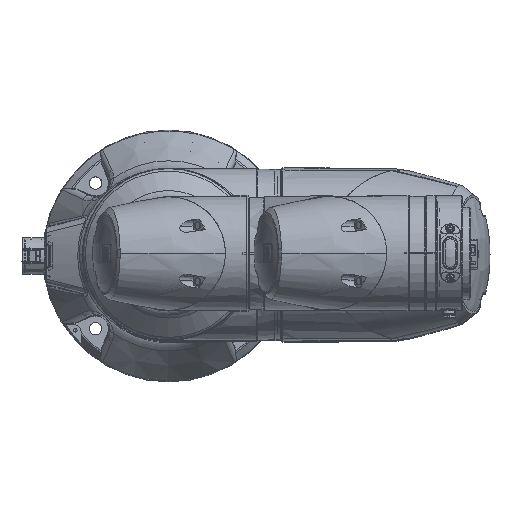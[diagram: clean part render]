
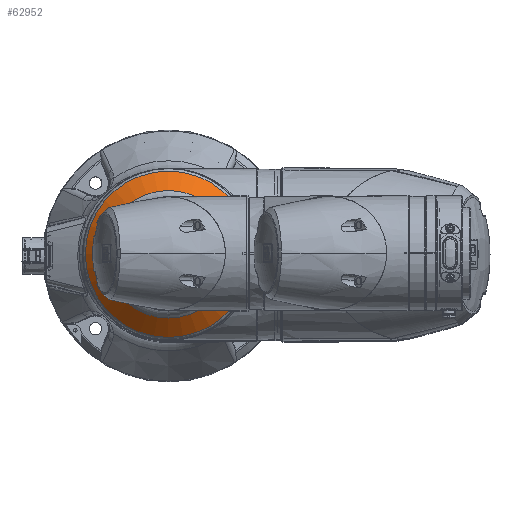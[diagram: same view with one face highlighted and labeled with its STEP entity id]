
A CAD part, top view. The second image highlights one B-rep face of the part: STEP entity #62952.
In plain terms, the highlighted conical face has half-angle 47 degrees and reference radius 57.092 mm.
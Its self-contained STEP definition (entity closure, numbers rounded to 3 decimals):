
#1150=CONICAL_SURFACE('',#68320,57.092,0.82);
#11466=FACE_OUTER_BOUND('',#15218,.T.);
#15218=EDGE_LOOP('',(#51871,#51872,#51873,#51874));
#18345=CIRCLE('',#68319,57.092);
#18346=CIRCLE('',#68321,43.77);
#21253=LINE('',#204910,#24628);
#24628=VECTOR('',#79438,57.092);
#29573=VERTEX_POINT('',#204905);
#29574=VERTEX_POINT('',#204909);
#37385=EDGE_CURVE('',#29573,#29573,#18345,.T.);
#37386=EDGE_CURVE('',#29573,#29574,#21253,.T.);
#37387=EDGE_CURVE('',#29574,#29574,#18346,.T.);
#51871=ORIENTED_EDGE('',*,*,#37385,.T.);
#51872=ORIENTED_EDGE('',*,*,#37386,.T.);
#51873=ORIENTED_EDGE('',*,*,#37387,.F.);
#51874=ORIENTED_EDGE('',*,*,#37386,.F.);
#62952=ADVANCED_FACE('',(#11466),#1150,.T.);
#68319=AXIS2_PLACEMENT_3D('',#204907,#79434,#79435);
#68320=AXIS2_PLACEMENT_3D('',#204908,#79436,#79437);
#68321=AXIS2_PLACEMENT_3D('',#204911,#79439,#79440);
#79434=DIRECTION('center_axis',(0.,1.,
0.007));
#79435=DIRECTION('ref_axis',(-1.,0.,0.));
#79436=DIRECTION('center_axis',(0.,-1.,
-0.007));
#79437=DIRECTION('ref_axis',(-1.,0.,0.));
#79438=DIRECTION('',(-0.731,0.682,0.005));
#79439=DIRECTION('center_axis',(0.,1.,
0.007));
#79440=DIRECTION('ref_axis',(-1.,0.,0.));
#204905=CARTESIAN_POINT('',(57.092,17.183,-1.949));
#204907=CARTESIAN_POINT('Origin',(0.,17.183,
-1.949));
#204908=CARTESIAN_POINT('Origin',(0.,17.183,
-1.949));
#204909=CARTESIAN_POINT('',(43.77,29.605,-1.865));
#204910=CARTESIAN_POINT('',(57.092,17.183,-1.949));
#204911=CARTESIAN_POINT('Origin',(0.,29.605,
-1.865));
